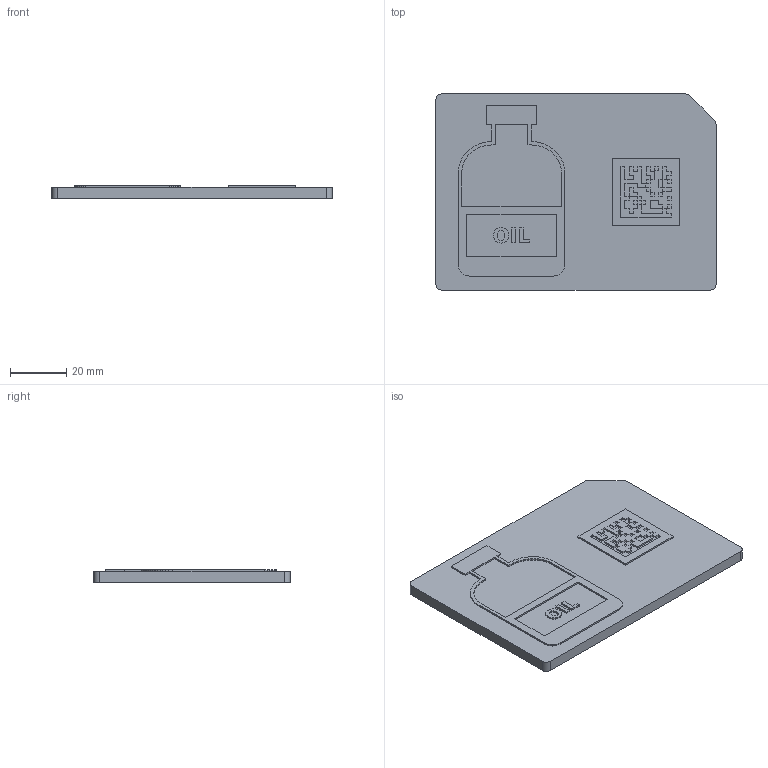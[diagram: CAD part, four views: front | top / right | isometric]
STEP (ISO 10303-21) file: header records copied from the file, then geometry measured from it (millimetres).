
FILE_DESCRIPTION(('Open CASCADE Model'),'2;1');
FILE_NAME('Open CASCADE Shape Model','2026-10-14T18:10:07',('Author'),( 'Open CASCADE'),'Open CASCADE STEP processor 7.9','Open CASCADE 7.9' ,'Unknown');
FILE_SCHEMA(('AUTOMOTIVE_DESIGN { 1 0 10303 214 1 1 1 1 }'));
Length unit declared in the file: millimetre
Products named in the file (3): SN-4844; SN-4844_base_dark; SN-4844_features_red
Assembly tree (2 placements, depth 2):
  SN-4844
    SN-4844_base_dark
    SN-4844_features_red
Bounding box: 100 x 70 x 4.6 mm (x, y, z)
Volume: 28466.6 mm3; surface area: 19266.8 mm2
Topology: 6 solids, 6 shells, 602 faces, 1692 edges, 1128 vertices
Faces by surface type: plane 597, cylinder 5
Entity records: 40620 total; most frequent: CARTESIAN_POINT 7375, DIRECTION 5740, LINE 4502, VECTOR 4502, ORIENTED_EDGE 3384, PCURVE 3384, DEFINITIONAL_REPRESENTATION 3384, EDGE_CURVE 1692
